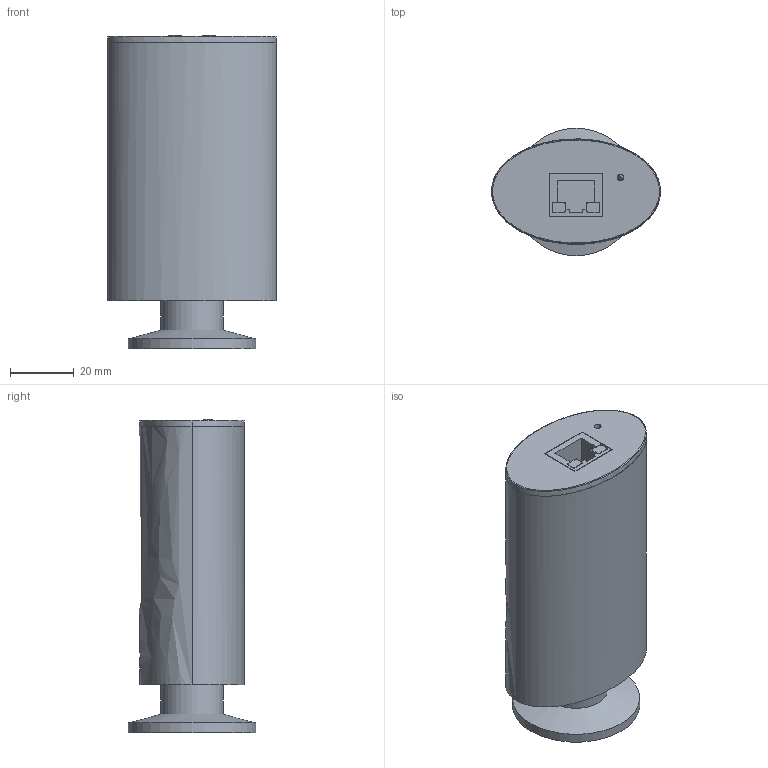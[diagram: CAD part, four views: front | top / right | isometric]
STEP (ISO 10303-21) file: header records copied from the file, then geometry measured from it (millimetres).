
FILE_DESCRIPTION (( 'STEP AP203' ), '1' );
FILE_NAME ('52YZA.STEP', '2025-06-05T07:15:16', ( '' ), ( '' ), 'SwSTEP 2.0', 'SolidWorks 2021', '' );
FILE_SCHEMA (( 'CONFIG_CONTROL_DESIGN' ));
Length unit declared in the file: millimetre
Products named in the file (1): 52YZA
Bounding box: 53 x 40 x 98.25 mm (x, y, z)
Volume: 48155.8 mm3; surface area: 43475.4 mm2
Topology: 6 solids, 6 shells, 432 faces, 1173 edges, 776 vertices
Faces by surface type: plane 272, bspline 82, cylinder 68, cone 10
Full cylindrical faces by diameter (mm): 1.61 x4, 3 x4, 4.5 x2, 19.5 x1, 40 x1
Entity records: 17547 total; most frequent: CARTESIAN_POINT 7550, ORIENTED_EDGE 2310, DIRECTION 1615, EDGE_CURVE 1155, VERTEX_POINT 772, LINE 679, VECTOR 679, EDGE_LOOP 489
